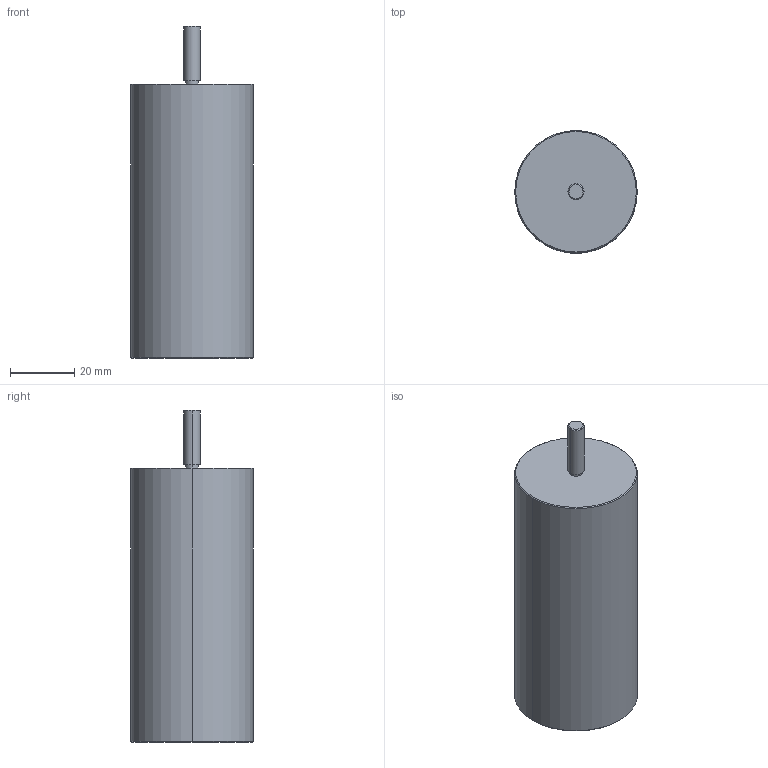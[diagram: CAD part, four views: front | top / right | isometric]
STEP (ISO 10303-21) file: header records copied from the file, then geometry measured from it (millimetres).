
FILE_DESCRIPTION (( 'STEP AP203' ), '1' );
FILE_NAME ('隅秶祥凄詩翐赽.STEP', '2026-07-11T01:26:35', ( '' ), ( '' ), 'SwSTEP 2.0', 'SolidWorks 2024', '' );
FILE_SCHEMA (( 'CONFIG_CONTROL_DESIGN' ));
Length unit declared in the file: millimetre
Products named in the file (1): 定制不锈钢柱子
Bounding box: 38 x 38 x 103 mm (x, y, z)
Volume: 96469.7 mm3; surface area: 12871.7 mm2
Topology: 1 solids, 1 shells, 20 faces, 40 edges, 23 vertices
Faces by surface type: cylinder 8, cone 8, plane 4
Entity records: 585 total; most frequent: DIRECTION 102, CARTESIAN_POINT 82, ORIENTED_EDGE 76, AXIS2_PLACEMENT_3D 43, EDGE_CURVE 38, EDGE_LOOP 23, VERTEX_POINT 23, CIRCLE 22
